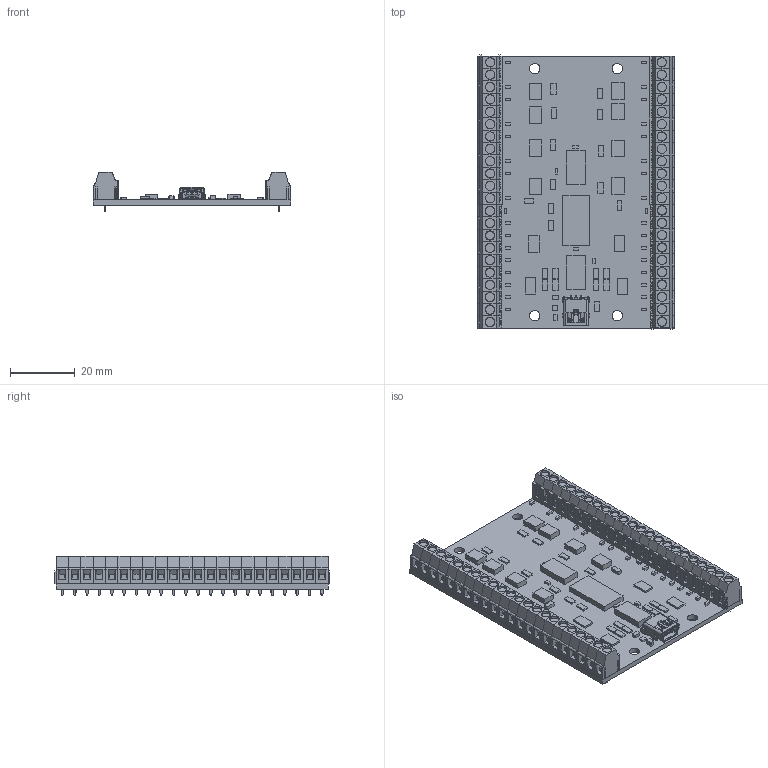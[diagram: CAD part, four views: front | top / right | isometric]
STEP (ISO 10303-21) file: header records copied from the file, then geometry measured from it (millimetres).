
FILE_DESCRIPTION(('Open CASCADE Model'),'2;1');
FILE_NAME('Open CASCADE Shape Model','2010-10-27T11:49:31',('Author'),( 'Open CASCADE'),'Open CASCADE STEP processor 6.2','Open CASCADE 6.2' ,'Unknown');
FILE_SCHEMA(('AUTOMOTIVE_DESIGN { 1 0 10303 214 1 1 1 1 }'));
Length unit declared in the file: millimetre
Products named in the file (119): PCB; Board; C1; 489472960; Extruded; C10; 489473088; C9; R20; 489472832; L1; 489473472; C2; 603641872; D17; U1; 489483840; R19; U5; 489472064; U2; U4; 489480128; U3; 489472320; R11; 489472704; R10; 489473216; R9; R8; R7; R6; R4; R3; R2; R1; D16; D15; D14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
Assembly tree (204 placements, depth 4):
  PCB
    Board
    C1
      489472960
        Extruded
    C10
      489473088
        Extruded
    C9
      489473088
        Extruded
    R20
      489472832
        Extruded
    L1
      489473472
        Extruded
    C2
      603641872
        Extruded
    D17
      489472960
        Extruded
    U1
      489483840
        Extruded
    R19
      489472960
        Extruded
    U5
      489472064
        Extruded
    U2
      489472064
        Extruded
    U4
      489480128
        Extruded
    U3
      489472320
        Extruded
    R11
      489472704
        Extruded
    R10
      489473216
        Extruded
    R9
      489472704
        Extruded
    R8
      489472704
        Extruded
    R7
      489473216
        Extruded
    R6
      489472704
        Extruded
    R4
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Bounding box: 60.96 x 84.57 x 12.31 mm (x, y, z)
Volume: 17496.8 mm3; surface area: 28497.1 mm2
Topology: 175 solids, 175 shells, 5937 faces, 15460 edges, 9920 vertices
Faces by surface type: plane 4954, cylinder 869, cone 96, bspline 18
Full cylindrical faces by diameter (mm): 0.8 x5, 1.321 x44, 3.175 x4
Entity records: 61658 total; most frequent: CARTESIAN_POINT 14416, DIRECTION 8404, LINE 5498, VECTOR 5498, ORIENTED_EDGE 4472, PCURVE 4472, DEFINITIONAL_REPRESENTATION 4472, EDGE_CURVE 2236
